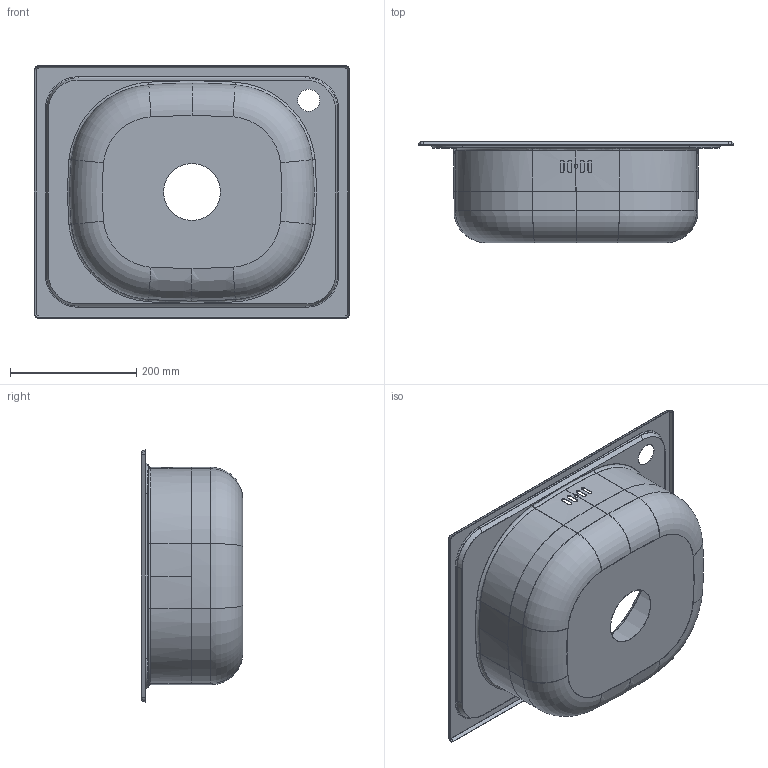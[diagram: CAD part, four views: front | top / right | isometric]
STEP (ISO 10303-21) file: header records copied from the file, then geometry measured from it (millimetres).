
FILE_DESCRIPTION(/* description */ (''),/* implementation_level */ '2;1');
FILE_NAME(/* name */ 'lavello lyp401.stp',/* time_stamp */ '2019-07-05T17:03:37+02:00',/* author */ (''),/* organization */ (''),/* preprocessor_version */ 'ST-DEVELOPER v16',/* originating_system */ 'SIEMENS PLM Software NX 11.0',/* authorisation */ '');
FILE_SCHEMA (('AUTOMOTIVE_DESIGN { 1 0 10303 214 3 1 1 1 }'));
Length unit declared in the file: millimetre
Products named in the file (1): gobb26D093A76c96
Bounding box: 500 x 160.82 x 400 mm (x, y, z)
Volume: 288429.3 mm3; surface area: 723157.8 mm2
Topology: 1 solids, 1 shells, 178 faces, 486 edges, 312 vertices
Faces by surface type: cylinder 52, bspline 52, plane 34, torus 24, cone 12, extrusion 4
Entity records: 10548 total; most frequent: CARTESIAN_POINT 6506, ORIENTED_EDGE 972, DIRECTION 620, EDGE_CURVE 486, VERTEX_POINT 312, AXIS2_PLACEMENT_3D 234, B_SPLINE_CURVE_WITH_KNOTS 231, EDGE_LOOP 194
